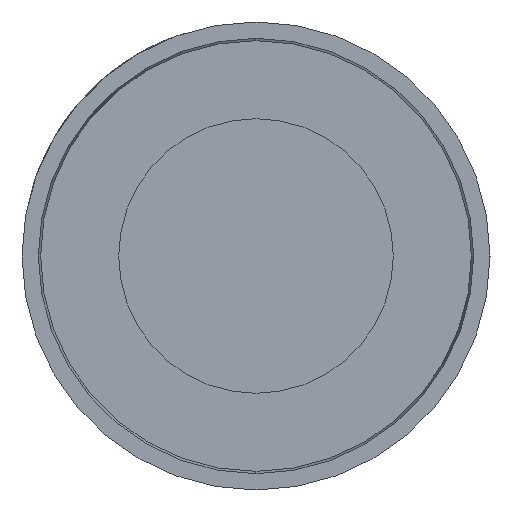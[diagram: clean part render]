
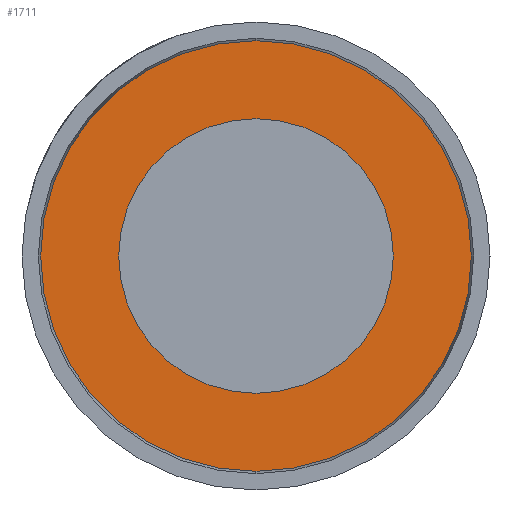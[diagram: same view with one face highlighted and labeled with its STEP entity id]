
A CAD part, left-side view. The second image highlights one B-rep face of the part: STEP entity #1711.
In plain terms, the highlighted planar face has unit normal (-1, 0, 0).
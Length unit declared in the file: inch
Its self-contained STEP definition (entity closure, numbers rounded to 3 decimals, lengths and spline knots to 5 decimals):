
#457 = VERTEX_POINT ( 'NONE', #13220 ) ;
#916 = DIRECTION ( 'NONE',  ( 0., 0., 1. ) ) ;
#1711 = ADVANCED_FACE ( 'NONE', ( #11798, #15253 ), #8325, .F. ) ;
#1915 = CARTESIAN_POINT ( 'NONE',  ( 0., 0., 0. ) ) ;
#2035 = VERTEX_POINT ( 'NONE', #9047 ) ;
#2691 = ORIENTED_EDGE ( 'NONE', *, *, #9749, .T. ) ;
#2896 = EDGE_LOOP ( 'NONE', ( #4022, #2691 ) ) ;
#3044 = AXIS2_PLACEMENT_3D ( 'NONE', #1915, #5370, #11900 ) ;
#3120 = ORIENTED_EDGE ( 'NONE', *, *, #6640, .F. ) ;
#3512 = AXIS2_PLACEMENT_3D ( 'NONE', #8949, #20766, #14076 ) ;
#4016 = CARTESIAN_POINT ( 'NONE',  ( 0., 0., 0. ) ) ;
#4022 = ORIENTED_EDGE ( 'NONE', *, *, #8876, .T. ) ;
#4057 = DIRECTION ( 'NONE',  ( 0., 0., 1. ) ) ;
#4125 = DIRECTION ( 'NONE',  ( -1., 0., 0. ) ) ;
#5370 = DIRECTION ( 'NONE',  ( 1., 0., 0. ) ) ;
#6640 = EDGE_CURVE ( 'NONE', #10434, #457, #19436, .T. ) ;
#6724 = CIRCLE ( 'NONE', #3512, 0.1725 ) ;
#7315 = DIRECTION ( 'NONE',  ( -1., 0., 0. ) ) ;
#7477 = EDGE_CURVE ( 'NONE', #457, #10434, #19270, .T. ) ;
#7516 = EDGE_LOOP ( 'NONE', ( #3120, #9580 ) ) ;
#8325 = PLANE ( 'NONE',  #3044 ) ;
#8876 = EDGE_CURVE ( 'NONE', #2035, #20848, #13740, .T. ) ;
#8949 = CARTESIAN_POINT ( 'NONE',  ( 0., 0., 0. ) ) ;
#9047 = CARTESIAN_POINT ( 'NONE',  ( 0., 0., 0.1725 ) ) ;
#9580 = ORIENTED_EDGE ( 'NONE', *, *, #7477, .F. ) ;
#9749 = EDGE_CURVE ( 'NONE', #20848, #2035, #6724, .T. ) ;
#9781 = DIRECTION ( 'NONE',  ( 0., 0., 1. ) ) ;
#10434 = VERTEX_POINT ( 'NONE', #18920 ) ;
#11632 = CARTESIAN_POINT ( 'NONE',  ( 0., 0., -0.1725 ) ) ;
#11798 = FACE_BOUND ( 'NONE', #7516, .T. ) ;
#11900 = DIRECTION ( 'NONE',  ( 0., 0., -1. ) ) ;
#13137 = CARTESIAN_POINT ( 'NONE',  ( 0., 0., 0. ) ) ;
#13220 = CARTESIAN_POINT ( 'NONE',  ( 0., 0., -0.11 ) ) ;
#13740 = CIRCLE ( 'NONE', #17274, 0.1725 ) ;
#14076 = DIRECTION ( 'NONE',  ( 0., 0., 1. ) ) ;
#15253 = FACE_OUTER_BOUND ( 'NONE', #2896, .T. ) ;
#16281 = AXIS2_PLACEMENT_3D ( 'NONE', #13137, #16345, #9781 ) ;
#16345 = DIRECTION ( 'NONE',  ( -1., 0., 0. ) ) ;
#17274 = AXIS2_PLACEMENT_3D ( 'NONE', #19327, #7315, #4057 ) ;
#18920 = CARTESIAN_POINT ( 'NONE',  ( 0., 0., 0.11 ) ) ;
#19270 = CIRCLE ( 'NONE', #21361, 0.11 ) ;
#19327 = CARTESIAN_POINT ( 'NONE',  ( 0., 0., 0. ) ) ;
#19436 = CIRCLE ( 'NONE', #16281, 0.11 ) ;
#20766 = DIRECTION ( 'NONE',  ( -1., 0., 0. ) ) ;
#20848 = VERTEX_POINT ( 'NONE', #11632 ) ;
#21361 = AXIS2_PLACEMENT_3D ( 'NONE', #4016, #4125, #916 ) ;
